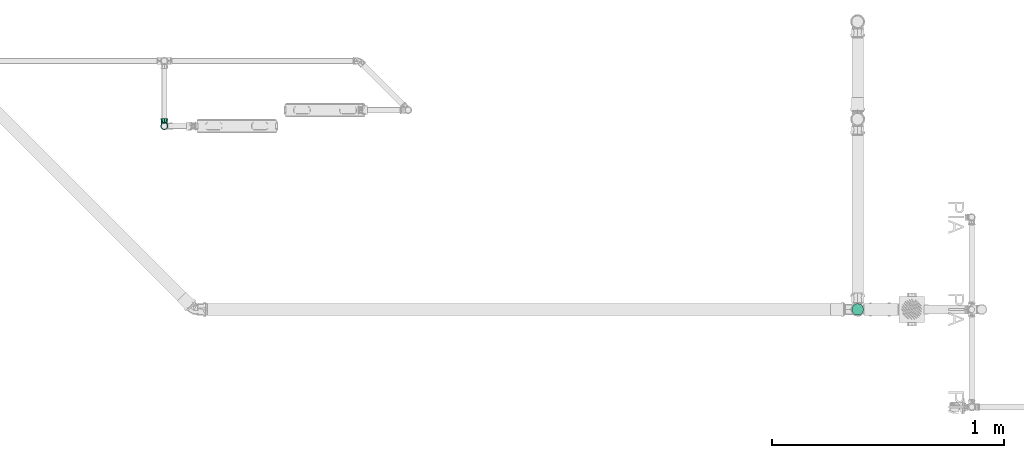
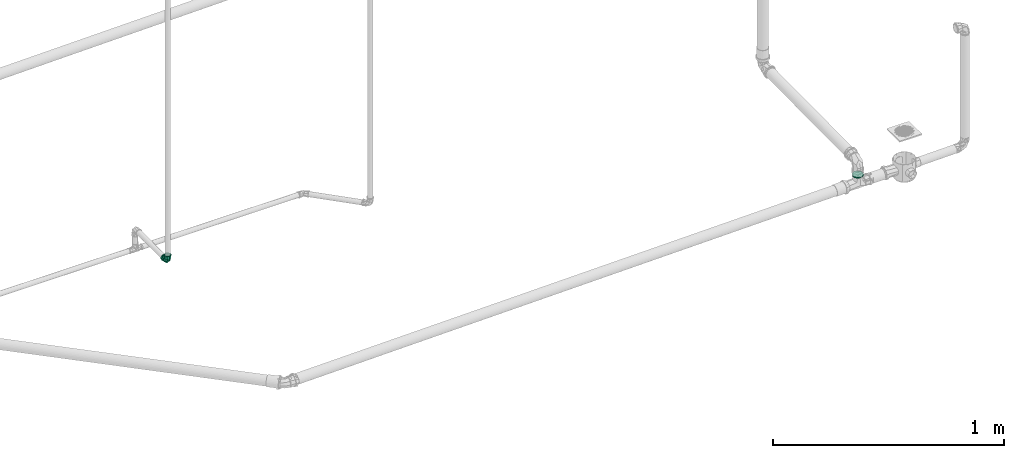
# One storey, part 391 of 589: 1 flow fitting, 1 flow segment.
"""IFC2X3 building model written with IfcOpenShell, lengths in millimetres."""

from ifc_helpers import new_model, entity, si_unit, converted_unit, derived_unit, direction, frame, origin, origin_2d_with_axis, place, context, subcontext, project, spatial, circle, extrude, faceted_brep, source, transform, mapped, material, type_object, type_shapes, element, save


model = new_model("IFC2X3")

# Units and contexts
model_context = context("Model", 3, precision=0.01, world=origin(), true_north=direction((6.123031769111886e-17, 1.0)))
body_context = subcontext(model_context, "Body", "Model", "MODEL_VIEW")
ifc_project = project(units=[si_unit("LENGTHUNIT", "METRE", prefix="MILLI"), si_unit("AREAUNIT", "SQUARE_METRE"), si_unit("VOLUMEUNIT", "CUBIC_METRE"), converted_unit("PLANEANGLEUNIT", "DEGREE", entity("IfcRatioMeasure", 0.017453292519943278), si_unit("PLANEANGLEUNIT", "RADIAN"), dimensions=[0, 0, 0, 0, 0, 0, 0]), si_unit("MASSUNIT", "GRAM", prefix="KILO"), derived_unit("MASSDENSITYUNIT", [(si_unit("MASSUNIT", "GRAM", prefix="KILO"), 1), (si_unit("LENGTHUNIT", "METRE"), -3)]), derived_unit("IONCONCENTRATIONUNIT", [(si_unit("MASSUNIT", "GRAM", prefix="KILO"), 1), (si_unit("LENGTHUNIT", "METRE"), -3)]), derived_unit("MOMENTOFINERTIAUNIT", [(si_unit("LENGTHUNIT", "METRE"), 4)]), si_unit("TIMEUNIT", "SECOND"), si_unit("FREQUENCYUNIT", "HERTZ"), si_unit("THERMODYNAMICTEMPERATUREUNIT", "DEGREE_CELSIUS"), derived_unit("THERMALTRANSMITTANCEUNIT", [(si_unit("MASSUNIT", "GRAM", prefix="KILO"), 1), (si_unit("THERMODYNAMICTEMPERATUREUNIT", "KELVIN"), -1), (si_unit("TIMEUNIT", "SECOND"), -3)]), derived_unit("THERMALCONDUCTANCEUNIT", [(si_unit("MASSUNIT", "GRAM", prefix="KILO"), 1), (si_unit("THERMODYNAMICTEMPERATUREUNIT", "KELVIN"), -1), (si_unit("TIMEUNIT", "SECOND"), -3), (si_unit("LENGTHUNIT", "METRE"), 1)]), derived_unit("VOLUMETRICFLOWRATEUNIT", [(si_unit("LENGTHUNIT", "METRE"), 3), (si_unit("TIMEUNIT", "SECOND"), -1)]), derived_unit("MASSFLOWRATEUNIT", [(si_unit("MASSUNIT", "GRAM", prefix="KILO"), 1), (si_unit("TIMEUNIT", "SECOND"), -1)]), derived_unit("ROTATIONALFREQUENCYUNIT", [(si_unit("TIMEUNIT", "SECOND"), -1)]), si_unit("ELECTRICCURRENTUNIT", "AMPERE"), si_unit("ELECTRICVOLTAGEUNIT", "VOLT"), si_unit("POWERUNIT", "WATT"), si_unit("FORCEUNIT", "NEWTON", prefix="KILO"), si_unit("ILLUMINANCEUNIT", "LUX"), si_unit("LUMINOUSFLUXUNIT", "LUMEN"), si_unit("LUMINOUSINTENSITYUNIT", "CANDELA"), derived_unit("USERDEFINED", [(si_unit("MASSUNIT", "GRAM", prefix="KILO"), -1), (si_unit("LENGTHUNIT", "METRE"), -2), (si_unit("TIMEUNIT", "SECOND"), 3), (si_unit("LUMINOUSFLUXUNIT", "LUMEN"), 1)]), derived_unit("USERDEFINED", [(si_unit("MASSUNIT", "GRAM", prefix="KILO"), 1), (si_unit("TIMEUNIT", "SECOND"), -3), (si_unit("LENGTHUNIT", "METRE"), 3), (si_unit("ELECTRICCURRENTUNIT", "AMPERE"), -2)]), derived_unit("SOUNDPOWERUNIT", [(si_unit("MASSUNIT", "GRAM", prefix="KILO"), 1), (si_unit("TIMEUNIT", "SECOND"), -3), (si_unit("LENGTHUNIT", "METRE"), 2)]), derived_unit("SOUNDPRESSUREUNIT", [(si_unit("MASSUNIT", "GRAM", prefix="KILO"), 1), (si_unit("LENGTHUNIT", "METRE"), -1), (si_unit("TIMEUNIT", "SECOND"), -2)]), derived_unit("LINEARVELOCITYUNIT", [(si_unit("LENGTHUNIT", "METRE"), 1), (si_unit("TIMEUNIT", "SECOND"), -1)]), si_unit("PRESSUREUNIT", "PASCAL"), derived_unit("USERDEFINED", [(si_unit("MASSUNIT", "GRAM", prefix="KILO"), 1), (si_unit("LENGTHUNIT", "METRE"), -2), (si_unit("TIMEUNIT", "SECOND"), -2)]), derived_unit("LINEARFORCEUNIT", [(si_unit("MASSUNIT", "GRAM", prefix="KILO"), 1), (si_unit("TIMEUNIT", "SECOND"), -2)]), derived_unit("PLANARFORCEUNIT", [(si_unit("MASSUNIT", "GRAM", prefix="KILO"), 1), (si_unit("LENGTHUNIT", "METRE"), -1), (si_unit("TIMEUNIT", "SECOND"), -2)]), derived_unit("SPECIFICHEATCAPACITYUNIT", [(si_unit("THERMODYNAMICTEMPERATUREUNIT", "KELVIN"), -1), (si_unit("LENGTHUNIT", "METRE"), 2), (si_unit("TIMEUNIT", "SECOND"), -2)]), derived_unit("HEATINGVALUEUNIT", [(si_unit("LENGTHUNIT", "METRE"), 2), (si_unit("TIMEUNIT", "SECOND"), -2)]), derived_unit("VAPORPERMEABILITYUNIT", [(si_unit("LENGTHUNIT", "METRE"), -1), (si_unit("TIMEUNIT", "SECOND"), 1)]), derived_unit("DYNAMICVISCOSITYUNIT", [(si_unit("MASSUNIT", "GRAM", prefix="KILO"), 1), (si_unit("TIMEUNIT", "SECOND"), -1), (si_unit("LENGTHUNIT", "METRE"), -1)]), derived_unit("THERMALEXPANSIONCOEFFICIENTUNIT", [(si_unit("THERMODYNAMICTEMPERATUREUNIT", "KELVIN"), -1)]), derived_unit("MODULUSOFELASTICITYUNIT", [(si_unit("MASSUNIT", "GRAM", prefix="KILO"), 1), (si_unit("LENGTHUNIT", "METRE"), -1), (si_unit("TIMEUNIT", "SECOND"), -2)]), derived_unit("ISOTHERMALMOISTURECAPACITYUNIT", [(si_unit("LENGTHUNIT", "METRE"), 3), (si_unit("MASSUNIT", "GRAM", prefix="KILO"), -1)]), derived_unit("MOISTUREDIFFUSIVITYUNIT", [(si_unit("TIMEUNIT", "SECOND"), -1), (si_unit("LENGTHUNIT", "METRE"), 2)])], contexts=[model_context])

# Site, building, storey
site_placement = place(None, origin())
site = spatial("IfcSite", under=ifc_project, at=site_placement, Name="Default", CompositionType="ELEMENT")
building_placement = place(site_placement, origin())
building = spatial("IfcBuilding", under=site, at=building_placement, CompositionType="ELEMENT")
storey_placement = place(building_placement, frame((0.0, 0.0, 100.0)))
storey = spatial("IfcBuildingStorey", under=building, at=storey_placement, Name="TÉRREO", CompositionType="ELEMENT", Elevation=100.0)

# Flow segment
pipe_segment_type = type_object("IfcPipeSegmentType", Name="Tipos de tubos:PVC Esgoto Série Normal", PredefinedType="NOTDEFINED")
flow_segment_placement = place(storey_placement, origin())
element("IfcFlowSegment", 1, at=flow_segment_placement, inside=storey, type_object=pipe_segment_type, Name="Tipos de tubos:PVC Esgoto Série Normal", ObjectType="Tipos de tubos:PVC Esgoto Série Normal", context=body_context, shape_type="SweptSolid", body=[
    extrude(circle(Radius=25.0, at=origin_2d_with_axis()), frame((2699.4844981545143, 697.729007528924, -151.50271710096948), z_axis=(0.0, 0.0, 1.0), x_axis=(-1.0, 0.0, 0.0)), (0.0, 0.0, 1.0), 5.561417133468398),
])

# Flow fitting
ifc_material = material(Name="PVC Marrom")
pipe_fitting_type = type_object("IfcPipeFittingType", Name="PVC Marrom Soldável_Joelho 45°_90°_Rodrigo MEP:Joelho", PredefinedType="NOTDEFINED", material=ifc_material)
shared_shape = source(origin(), body_context, "Body", "Brep", [
    faceted_brep([(3.908167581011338, 15.40000000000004, 14.585479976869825), (13.076983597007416, 15.40000000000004, 7.549999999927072), (15.099999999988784, 15.40000000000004, 0.0), (13.076983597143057, 15.40000000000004, -7.55000000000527), (3.9081675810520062, 15.40000000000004, -14.585479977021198), (-3.9081675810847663, 15.40000000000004, -14.585479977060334), (-13.076983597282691, 15.40000000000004, -7.550000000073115), (-15.100000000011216, 15.40000000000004, 0.0), (-13.076983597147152, 15.40000000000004, 7.549999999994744), (-3.908167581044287, 15.40000000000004, 14.585479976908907), (-3.633819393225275, 14.30000000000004, 13.561598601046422), (-12.158996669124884, 14.30000000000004, 7.0199999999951), (-14.040000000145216, 14.30000000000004, 0.0), (-12.158996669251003, 14.30000000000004, -7.020000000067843), (-3.6338193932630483, 14.30000000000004, -13.561598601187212), (3.6338193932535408, 14.30000000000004, -13.561598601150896), (12.158996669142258, 14.30000000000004, -7.020000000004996), (14.039999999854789, 14.30000000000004, 0.0), (12.158996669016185, 14.30000000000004, 7.0199999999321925), (3.6338193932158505, 14.30000000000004, 13.561598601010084)], [[[0, 1, 2, 3, 4, 5, 6, 7, 8, 9]], [[10, 11, 12, 13, 14, 15, 16, 17, 18, 19]], [[3, 17, 16]], [[4, 3, 16, 15]], [[3, 2, 17]], [[15, 14, 5, 4]], [[6, 5, 14, 13]], [[7, 13, 12]], [[7, 6, 13]], [[8, 12, 11]], [[9, 8, 11, 10]], [[8, 7, 12]], [[10, 19, 0, 9]], [[1, 0, 19, 18]], [[2, 18, 17]], [[2, 1, 18]]]),
    faceted_brep([(-15.399999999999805, 3.908167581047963, 14.585479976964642), (-15.399999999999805, 13.076983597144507, 7.549999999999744), (-15.399999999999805, 15.100000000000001, 0.0), (-15.399999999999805, 13.076983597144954, -7.54999999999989), (-15.399999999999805, 3.9081675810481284, -14.58547997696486), (-15.399999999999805, -3.9081675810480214, -14.585479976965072), (-15.399999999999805, -13.0769835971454, -7.550000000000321), (-15.399999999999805, -15.099999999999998, 0.0), (-15.399999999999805, -13.076983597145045, 7.550000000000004), (-15.399999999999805, -3.908167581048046, 14.585479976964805), (-14.299999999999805, 12.158996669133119, 7.019999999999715), (-14.299999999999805, 3.6338193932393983, 13.561598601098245), (-14.299999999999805, -3.633819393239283, 13.56159860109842), (-14.299999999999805, -12.15899666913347, 7.020000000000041), (-14.299999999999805, -14.040000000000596, 0.0), (-14.299999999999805, -12.158996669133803, -7.020000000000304), (-14.299999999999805, -3.63381939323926, -13.561598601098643), (-14.299999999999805, 3.6338193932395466, -13.56159860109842), (-14.299999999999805, 12.158996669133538, -7.019999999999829), (-14.299999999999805, 14.03999999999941, 0.0)], [[[0, 1, 2, 3, 4, 5, 6, 7, 8, 9]], [[10, 11, 12, 13, 14, 15, 16, 17, 18, 19]], [[3, 2, 19, 18]], [[4, 3, 18, 17]], [[17, 16, 5, 4]], [[6, 5, 16, 15]], [[7, 6, 15, 14]], [[8, 7, 14, 13]], [[9, 8, 13, 12]], [[12, 11, 0, 9]], [[1, 0, 11, 10]], [[2, 1, 10, 19]]]),
    faceted_brep([(-33.4999999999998, -4.2705142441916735, -15.937776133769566), (-33.4999999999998, -6.250000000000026, -10.825317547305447), (-33.4999999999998, 0.0, -12.5), (-33.4999999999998, -14.289419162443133, -8.25000000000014), (-33.4999999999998, 4.270514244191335, -15.937776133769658), (-33.4999999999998, -12.074072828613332, -3.23523806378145), (-33.4999999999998, -16.499999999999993, 0.0), (-33.4999999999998, -12.074072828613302, 3.2352380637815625), (-33.4999999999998, -14.289419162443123, 8.249999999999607), (-33.4999999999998, -6.249999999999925, 10.825317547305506), (-33.4999999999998, -4.27051424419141, 15.937776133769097), (-33.4999999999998, 0.0, 12.5), (-33.4999999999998, 4.270514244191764, 15.937776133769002), (-33.4999999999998, 6.249999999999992, 10.825317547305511), (-33.4999999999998, 14.28941916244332, 8.249999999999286), (-33.4999999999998, 12.074072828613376, 3.2352380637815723), (-33.4999999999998, 16.500000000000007, 0.0), (-33.4999999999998, 12.074072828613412, -3.235238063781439), (-33.4999999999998, 14.289419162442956, -8.250000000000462), (-33.4999999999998, 6.250000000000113, -10.82531754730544), (-29.499999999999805, 16.5, 0.0), (-29.500000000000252, 12.639142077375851, 10.606700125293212), (-29.50000000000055, 2.8633833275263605, 16.249647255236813), (-29.50000000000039, -12.64180232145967, 10.603529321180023), (-29.499999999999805, -16.499999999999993, 0.0), (-29.500000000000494, -4.889209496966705, 13.426588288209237), (-29.49999999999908, -12.641802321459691, -10.603529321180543), (-29.49999999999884, -2.8674593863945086, -16.24892847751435), (-29.499999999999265, 12.639142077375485, -10.606700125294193), (-29.499999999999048, 4.885841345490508, -13.427814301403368), (-28.099999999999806, -15.099999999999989, 0.0), (-28.10000000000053, -11.56916454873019, 9.703835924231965), (-28.100000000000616, -4.474367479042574, 12.287362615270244), (-28.1000000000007, 2.6204295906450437, 14.870889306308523), (-28.100000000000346, 11.566730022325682, 9.706737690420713), (-28.09999999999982, 15.099999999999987, 0.0), (-28.099999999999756, 11.566730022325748, -9.706737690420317), (-28.09999999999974, 4.4712851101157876, -12.28848460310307), (-28.09999999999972, -2.6241598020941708, -14.870231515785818), (-28.09999999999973, -11.569164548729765, -9.703835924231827), (-15.399999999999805, 0.0, -12.5), (-15.399999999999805, -6.250000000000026, -10.825317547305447), (-15.399999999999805, -3.908167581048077, -14.585479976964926), (-15.399999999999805, 3.9081675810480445, -14.585479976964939), (-15.399999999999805, 6.250000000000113, -10.82531754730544), (-15.399999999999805, -13.076983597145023, -7.549999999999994), (-15.399999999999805, -12.074072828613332, -3.23523806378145), (-15.399999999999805, -15.099999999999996, 0.0), (-15.399999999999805, -12.074072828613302, 3.2352380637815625), (-15.399999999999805, -13.076983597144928, 7.550000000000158), (-15.399999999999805, -6.249999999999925, 10.825317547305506), (-15.399999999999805, -3.9081675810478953, 14.585479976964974), (-15.399999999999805, 0.0, 12.5), (-15.399999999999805, 3.9081675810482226, 14.58547997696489), (-15.399999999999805, 6.249999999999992, 10.825317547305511), (-15.399999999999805, 13.076983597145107, 7.549999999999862), (-15.399999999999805, 12.074072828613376, 3.2352380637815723), (-15.399999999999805, 15.100000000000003, 0.0), (-15.399999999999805, 12.074072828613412, -3.235238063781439), (-15.399999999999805, 13.076983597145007, -7.550000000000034)], [[[0, 1, 2]], [[1, 0, 3]], [[2, 4, 0]], [[3, 5, 1]], [[3, 6, 5]], [[5, 6, 7]], [[8, 7, 6]], [[7, 8, 9]], [[10, 9, 8]], [[9, 10, 11]], [[11, 10, 12]], [[12, 13, 11]], [[14, 13, 12]], [[13, 14, 15]], [[16, 15, 14]], [[16, 17, 15]], [[18, 17, 16]], [[19, 17, 18]], [[19, 18, 4]], [[4, 2, 19]], [[16, 14, 20]], [[14, 21, 20]], [[21, 14, 12]], [[21, 12, 22]], [[23, 10, 8]], [[24, 8, 6]], [[10, 23, 25, 22]], [[23, 8, 24]], [[10, 22, 12]], [[6, 3, 24]], [[3, 26, 24]], [[26, 3, 0]], [[26, 0, 27]], [[28, 4, 18]], [[20, 18, 16]], [[4, 28, 29, 27]], [[28, 18, 20]], [[4, 27, 0]], [[30, 31, 23, 24]], [[31, 32, 33, 22, 25, 23]], [[34, 35, 20, 21]], [[34, 21, 22, 33]], [[35, 36, 28, 20]], [[36, 37, 38, 27, 29, 28]], [[39, 30, 24, 26]], [[39, 26, 27, 38]], [[40, 41, 42]], [[42, 43, 40]], [[44, 40, 43]], [[45, 42, 41]], [[41, 46, 45]], [[46, 47, 45]], [[48, 47, 46]], [[47, 48, 49]], [[50, 49, 48]], [[49, 50, 51]], [[52, 51, 50]], [[53, 51, 52]], [[52, 54, 53]], [[53, 54, 55]], [[56, 55, 54]], [[55, 56, 57]], [[56, 58, 57]], [[59, 58, 44]], [[57, 58, 59]], [[43, 59, 44]], [[35, 34, 55]], [[35, 55, 57]], [[55, 34, 53]], [[34, 33, 53]], [[51, 33, 32, 31]], [[49, 31, 30]], [[31, 49, 51]], [[49, 30, 47]], [[33, 51, 53]], [[30, 39, 45]], [[30, 45, 47]], [[45, 39, 42]], [[39, 38, 42]], [[43, 38, 37, 36]], [[59, 36, 35]], [[36, 59, 43]], [[59, 35, 57]], [[38, 43, 42]], [[9, 11, 52, 50]], [[7, 9, 50, 48]], [[48, 46, 5, 7]], [[1, 5, 46, 41]], [[2, 1, 41, 40]], [[19, 2, 40, 44]], [[17, 19, 44, 58]], [[58, 56, 15, 17]], [[13, 15, 56, 54]], [[11, 13, 54, 52]]]),
    faceted_brep([(-14.299999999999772, -3.6338193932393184, -13.561598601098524), (-14.299999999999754, -12.158996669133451, -7.020000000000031), (-14.29999999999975, -14.039999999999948, 0.0), (-14.299999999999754, -12.158996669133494, 7.019999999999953), (-14.299999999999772, -3.6338193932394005, 13.561598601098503), (-14.299999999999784, 3.633819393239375, 13.561598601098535), (-14.299999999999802, 12.158996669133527, 7.0200000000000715), (-14.299999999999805, 14.04000000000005, 0.0), (-14.299999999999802, 12.158996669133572, -7.019999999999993), (-14.299999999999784, 3.63381939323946, -13.561598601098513), (3.633819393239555, 14.29999999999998, -13.561598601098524), (-3.633819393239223, 14.300000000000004, -13.561598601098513), (-12.158996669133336, 14.300000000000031, -7.019999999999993), (-14.039999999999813, 14.300000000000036, 0.0), (-12.158996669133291, 14.300000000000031, 7.0200000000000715), (-3.6338193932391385, 14.300000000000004, 13.561598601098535), (3.6338193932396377, 14.29999999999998, 13.561598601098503), (12.158996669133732, 14.299999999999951, 7.019999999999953), (14.040000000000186, 14.299999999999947, 0.0), (12.158996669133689, 14.299999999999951, -7.020000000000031), (-0.45476175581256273, 0.4547603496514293, 13.009299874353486), (-4.991226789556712, -9.102895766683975, 8.866254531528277), (-2.689013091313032, -7.336393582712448, 0.0), (3.7770734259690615, -3.6031967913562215, 0.0), (9.09033094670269, 4.905775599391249, 8.841582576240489), (10.243159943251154, 0.13000000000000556, 0.0), (-14.116152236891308, 14.116152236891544, 0.0), (-8.296884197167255, 8.29688403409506, 12.78130953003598), (-0.454761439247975, 0.45476027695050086, -13.009299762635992), (-8.296884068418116, 8.296883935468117, -12.78130960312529), (9.090330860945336, 4.90577564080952, -8.84158269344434), (-4.991226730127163, -9.10289574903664, -8.866254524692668)], [[[0, 1, 2, 3, 4, 5, 6, 7, 8, 9]], [[10, 11, 12, 13, 14, 15, 16, 17, 18, 19]], [[4, 20, 5]], [[21, 3, 22]], [[20, 4, 21]], [[21, 22, 23]], [[17, 24, 25]], [[26, 6, 14]], [[23, 20, 21]], [[26, 7, 6]], [[6, 5, 27]], [[3, 2, 22]], [[20, 23, 24]], [[25, 18, 17]], [[20, 27, 5]], [[16, 20, 24]], [[17, 16, 24]], [[6, 27, 14]], [[26, 14, 13]], [[21, 4, 3]], [[27, 15, 14]], [[27, 20, 15]], [[23, 25, 24]], [[15, 20, 16]], [[8, 7, 26]], [[28, 29, 11]], [[28, 10, 30]], [[8, 12, 29]], [[31, 22, 1]], [[31, 23, 22]], [[28, 9, 29]], [[19, 30, 10]], [[0, 28, 31]], [[1, 22, 2]], [[8, 26, 12]], [[12, 11, 29]], [[8, 29, 9]], [[31, 1, 0]], [[10, 28, 11]], [[30, 19, 25]], [[0, 9, 28]], [[19, 18, 25]], [[25, 23, 30]], [[23, 31, 28]], [[30, 23, 28]], [[12, 26, 13]]]),
    faceted_brep([(0.0, 15.40000000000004, -12.5), (-6.249999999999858, 15.40000000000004, -10.825317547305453), (-3.908167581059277, 15.40000000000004, -14.585479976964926), (3.9081675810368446, 15.40000000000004, -14.585479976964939), (6.250000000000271, 15.40000000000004, -10.82531754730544), (-13.076983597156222, 15.40000000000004, -7.549999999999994), (-12.07407282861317, 15.40000000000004, -3.235238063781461), (-15.100000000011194, 15.40000000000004, 0.0), (-12.074072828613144, 15.40000000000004, 3.2352380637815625), (-13.076983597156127, 15.40000000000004, 7.550000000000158), (-6.249999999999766, 15.40000000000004, 10.825317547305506), (-3.9081675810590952, 15.40000000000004, 14.585479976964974), (0.0, 15.40000000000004, 12.5), (3.9081675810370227, 15.40000000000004, 14.58547997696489), (6.250000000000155, 15.40000000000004, 10.825317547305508), (13.076983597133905, 15.40000000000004, 7.549999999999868), (12.074072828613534, 15.40000000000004, 3.2352380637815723), (15.099999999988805, 15.40000000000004, 0.0), (12.07407282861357, 15.40000000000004, -3.235238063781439), (13.07698359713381, 15.40000000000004, -7.550000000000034), (15.099999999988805, 28.10000000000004, 0.0), (11.56673002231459, 28.100000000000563, 9.706737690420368), (4.471285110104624, 28.10000000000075, 12.288484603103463), (-2.624159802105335, 28.100000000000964, 14.870231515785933), (-11.569164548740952, 28.10000000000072, 9.703835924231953), (-15.100000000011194, 28.10000000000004, 0.0), (-11.569164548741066, 28.10000000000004, -9.703835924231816), (-4.474367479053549, 28.10000000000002, -12.287362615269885), (2.6204295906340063, 28.099999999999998, -14.870889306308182), (11.566730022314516, 28.10000000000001, -9.706737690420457), (-12.639142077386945, 29.50000000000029, 10.606700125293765), (-16.50000000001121, 29.500000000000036, 0.0), (-2.8633833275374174, 29.50000000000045, 16.249647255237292), (12.641802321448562, 29.500000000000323, 10.603529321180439), (4.889209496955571, 29.500000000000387, 13.426588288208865), (16.499999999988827, 29.50000000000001, 0.0), (12.64180232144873, 29.500000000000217, -10.603529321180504), (2.867459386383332, 29.500000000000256, -16.24892847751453), (-12.639142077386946, 29.500000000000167, -10.606700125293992), (-4.885841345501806, 29.500000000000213, -13.427814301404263), (-4.270514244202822, 33.50000000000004, -15.937776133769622), (-6.249999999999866, 33.50000000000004, -10.825317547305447), (0.0, 33.50000000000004, -12.5), (-14.289419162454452, 33.50000000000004, -8.249999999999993), (4.270514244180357, 33.50000000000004, -15.937776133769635), (-12.074072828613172, 33.50000000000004, -3.23523806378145), (-16.50000000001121, 33.50000000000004, 0.0), (-12.074072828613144, 33.50000000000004, 3.2352380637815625), (-14.28941916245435, 33.50000000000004, 8.250000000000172), (-6.2499999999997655, 33.50000000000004, 10.825317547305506), (-4.270514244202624, 33.50000000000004, 15.937776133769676), (0.0, 33.50000000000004, 12.5), (4.270514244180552, 33.50000000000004, 15.937776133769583), (6.250000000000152, 33.50000000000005, 10.825317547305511), (14.289419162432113, 33.50000000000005, 8.249999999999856), (12.074072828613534, 33.50000000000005, 3.2352380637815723), (16.49999999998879, 33.50000000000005, 0.0), (12.07407282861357, 33.50000000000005, -3.235238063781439), (14.289419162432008, 33.50000000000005, -8.250000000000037), (6.250000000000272, 33.50000000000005, -10.82531754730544)], [[[0, 1, 2]], [[2, 3, 0]], [[4, 0, 3]], [[5, 2, 1]], [[1, 6, 5]], [[6, 7, 5]], [[8, 7, 6]], [[7, 8, 9]], [[10, 9, 8]], [[9, 10, 11]], [[12, 11, 10]], [[13, 11, 12]], [[12, 14, 13]], [[13, 14, 15]], [[16, 15, 14]], [[15, 16, 17]], [[16, 18, 17]], [[19, 18, 4]], [[17, 18, 19]], [[3, 19, 4]], [[20, 21, 15]], [[20, 15, 17]], [[15, 21, 13]], [[13, 21, 22, 23]], [[11, 23, 24]], [[9, 24, 25]], [[24, 9, 11]], [[9, 25, 7]], [[23, 11, 13]], [[25, 26, 5]], [[25, 5, 7]], [[5, 26, 2]], [[2, 26, 27, 28]], [[3, 28, 29]], [[19, 29, 20]], [[29, 19, 3]], [[19, 20, 17]], [[28, 3, 2]], [[24, 23, 30]], [[25, 24, 31]], [[31, 24, 30]], [[23, 32, 30]], [[21, 20, 33]], [[21, 33, 34]], [[22, 32, 23]], [[35, 33, 20]], [[32, 22, 34]], [[22, 21, 34]], [[20, 29, 36]], [[36, 35, 20]], [[37, 36, 29]], [[38, 39, 27]], [[29, 28, 37]], [[26, 25, 31]], [[38, 27, 26]], [[38, 26, 31]], [[28, 39, 37]], [[39, 28, 27]], [[40, 41, 42]], [[41, 40, 43]], [[42, 44, 40]], [[43, 45, 41]], [[43, 46, 45]], [[45, 46, 47]], [[48, 47, 46]], [[47, 48, 49]], [[50, 49, 48]], [[49, 50, 51]], [[51, 50, 52]], [[52, 53, 51]], [[54, 53, 52]], [[53, 54, 55]], [[56, 55, 54]], [[56, 57, 55]], [[58, 57, 56]], [[59, 57, 58]], [[59, 58, 44]], [[44, 42, 59]], [[56, 54, 35]], [[54, 33, 35]], [[33, 54, 52]], [[52, 32, 34, 33]], [[30, 50, 48]], [[31, 48, 46]], [[50, 30, 32]], [[30, 48, 31]], [[50, 32, 52]], [[46, 43, 31]], [[43, 38, 31]], [[38, 43, 40]], [[40, 37, 39, 38]], [[36, 44, 58]], [[35, 58, 56]], [[44, 36, 37]], [[36, 58, 35]], [[44, 37, 40]], [[49, 51, 12, 10]], [[47, 49, 10, 8]], [[8, 6, 45, 47]], [[41, 45, 6, 1]], [[42, 41, 1, 0]], [[59, 42, 0, 4]], [[57, 59, 4, 18]], [[18, 16, 55, 57]], [[53, 55, 16, 14]], [[51, 53, 14, 12]]]),
])
type_shapes(pipe_fitting_type, [shared_shape])
flow_fitting_placement = place(storey_placement, frame((-288.3479962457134, 1487.6480909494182, -37.359807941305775), z_axis=(1.0, 0.0, -9.679762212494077e-06), x_axis=(-9.679762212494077e-06, 0.0, -1.0)))
element("IfcFlowFitting", 2, at=flow_fitting_placement, inside=storey, type_object=pipe_fitting_type, material=ifc_material, Name="PVC Marrom Soldável_Joelho 45°_90°_Rodrigo MEP:Joelho", ObjectType="PVC Marrom Soldável_Joelho 45°_90°_Rodrigo MEP:Joelho", context=body_context, shape_type="MappedRepresentation", body=[
    mapped(shared_shape, transform((0.0, 0.0, 0.0), scale=1.0)),
])

save(model, "model.ifc")
